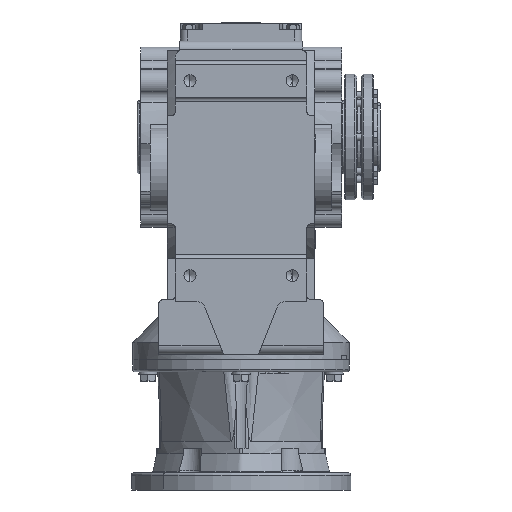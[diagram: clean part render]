
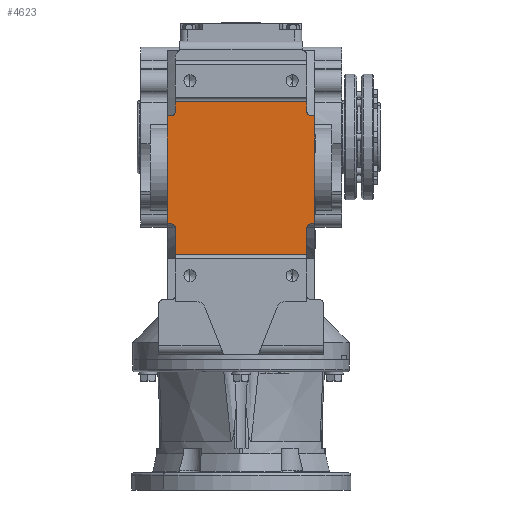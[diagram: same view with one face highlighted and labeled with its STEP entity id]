
A CAD part, front view. The second image highlights one B-rep face of the part: STEP entity #4623.
In plain terms, the highlighted planar face has unit normal (0, -1, 0).
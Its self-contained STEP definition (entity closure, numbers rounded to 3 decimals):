
#535 = EDGE_CURVE ( 'NONE', #593, #46365, #51818, .T. ) ;
#537 = EDGE_CURVE ( 'NONE', #593, #650, #51821, .T. ) ;
#539 = EDGE_CURVE ( 'NONE', #62287, #650, #51825, .T. ) ;
#544 = EDGE_CURVE ( 'NONE', #62287, #613, #51833, .T. ) ;
#593 = VERTEX_POINT ( 'NONE', #5169 ) ;
#613 = VERTEX_POINT ( 'NONE', #5114 ) ;
#650 = VERTEX_POINT ( 'NONE', #28445 ) ;
#709 = VERTEX_POINT ( 'NONE', #28261 ) ;
#712 = VERTEX_POINT ( 'NONE', #28277 ) ;
#782 = VERTEX_POINT ( 'NONE', #28432 ) ;
#790 = VERTEX_POINT ( 'NONE', #28418 ) ;
#809 = VERTEX_POINT ( 'NONE', #28392 ) ;
#820 = VERTEX_POINT ( 'NONE', #28376 ) ;
#839 = VERTEX_POINT ( 'NONE', #28347 ) ;
#843 = VERTEX_POINT ( 'NONE', #28342 ) ;
#862 = VERTEX_POINT ( 'NONE', #28320 ) ;
#864 = VERTEX_POINT ( 'NONE', #28318 ) ;
#1273 = CARTESIAN_POINT ( 'NONE',  ( -81., -206., -105. ) ) ;
#1274 = DIRECTION ( 'NONE',  ( 0., 1., 0. ) ) ;
#1275 = DIRECTION ( 'NONE',  ( 0., 0., -1. ) ) ;
#1824 = CARTESIAN_POINT ( 'NONE',  ( 85., -206., -100. ) ) ;
#4623 = ADVANCED_FACE ( 'NONE', ( #14067 ), #49195, .T. ) ;
#5114 = CARTESIAN_POINT ( 'NONE',  ( -76., -206., -105. ) ) ;
#5169 = CARTESIAN_POINT ( 'NONE',  ( 76., -206., -105. ) ) ;
#5333 = DIRECTION ( 'NONE',  ( 0., 0., 1. ) ) ;
#5334 = CARTESIAN_POINT ( 'NONE',  ( -76., -206., -103. ) ) ;
#5356 = DIRECTION ( 'NONE',  ( 0., 0., -1. ) ) ;
#5359 = CARTESIAN_POINT ( 'NONE',  ( 76., -206., -100. ) ) ;
#5360 = DIRECTION ( 'NONE',  ( 0., 0., -1. ) ) ;
#5361 = DIRECTION ( 'NONE',  ( 0., 1., 0. ) ) ;
#5362 = CARTESIAN_POINT ( 'NONE',  ( 81., -206., -105. ) ) ;
#5364 = CARTESIAN_POINT ( 'NONE',  ( -112., -206., -135.346 ) ) ;
#5366 = DIRECTION ( 'NONE',  ( 1., 0., 0. ) ) ;
#6863 = EDGE_CURVE ( 'NONE', #712, #17169, #15984, .T. ) ;
#6864 = EDGE_CURVE ( 'NONE', #782, #862, #15986, .T. ) ;
#6865 = EDGE_CURVE ( 'NONE', #862, #864, #15982, .T. ) ;
#6866 = EDGE_CURVE ( 'NONE', #790, #820, #15990, .T. ) ;
#6867 = EDGE_CURVE ( 'NONE', #839, #809, #15992, .T. ) ;
#6872 = EDGE_CURVE ( 'NONE', #864, #843, #16000, .T. ) ;
#6906 = EDGE_CURVE ( 'NONE', #790, #843, #16040, .T. ) ;
#6909 = EDGE_CURVE ( 'NONE', #839, #820, #16045, .T. ) ;
#6921 = EDGE_CURVE ( 'NONE', #709, #809, #16063, .T. ) ;
#6972 = EDGE_CURVE ( 'NONE', #709, #712, #16125, .T. ) ;
#7039 = EDGE_CURVE ( 'NONE', #46365, #17169, #43022, .T. ) ;
#7856 = CARTESIAN_POINT ( 'NONE',  ( -76., -206., -135.346 ) ) ;
#9004 = EDGE_CURVE ( 'NONE', #782, #613, #43325, .T. ) ;
#14067 = FACE_OUTER_BOUND ( 'NONE', #36953, .T. ) ;
#15982 = LINE ( 'NONE', #28007, #15991 ) ;
#15984 = LINE ( 'NONE', #28011, #15987 ) ;
#15986 = LINE ( 'NONE', #28013, #15989 ) ;
#15987 = VECTOR ( 'NONE', #28012, 1000. ) ;
#15989 = VECTOR ( 'NONE', #28015, 1000. ) ;
#15990 = LINE ( 'NONE', #28017, #15993 ) ;
#15991 = VECTOR ( 'NONE', #28016, 1000. ) ;
#15992 = LINE ( 'NONE', #28019, #15995 ) ;
#15993 = VECTOR ( 'NONE', #28018, 1000. ) ;
#15995 = VECTOR ( 'NONE', #28020, 1000. ) ;
#16000 = LINE ( 'NONE', #28031, #16003 ) ;
#16003 = VECTOR ( 'NONE', #28032, 1000. ) ;
#16040 = CIRCLE ( 'NONE', #46633, 5. ) ;
#16045 = LINE ( 'NONE', #24733, #16047 ) ;
#16047 = VECTOR ( 'NONE', #24736, 1000. ) ;
#16063 = CIRCLE ( 'NONE', #46636, 5. ) ;
#16125 = LINE ( 'NONE', #25289, #16130 ) ;
#16130 = VECTOR ( 'NONE', #25292, 1000. ) ;
#16536 = AXIS2_PLACEMENT_3D ( 'NONE', #49191, #49197, #49198 ) ;
#17169 = VERTEX_POINT ( 'NONE', #1824 ) ;
#18442 = CARTESIAN_POINT ( 'NONE',  ( 81., -206., -100. ) ) ;
#24733 = CARTESIAN_POINT ( 'NONE',  ( -112., -206., 41. ) ) ;
#24736 = DIRECTION ( 'NONE',  ( -1., 0., 0. ) ) ;
#24738 = CARTESIAN_POINT ( 'NONE',  ( -81., -206., 29.651 ) ) ;
#24740 = DIRECTION ( 'NONE',  ( 0., 1., 0. ) ) ;
#24742 = DIRECTION ( 'NONE',  ( 0., 0., -1. ) ) ;
#24815 = CARTESIAN_POINT ( 'NONE',  ( 81., -206., 29.651 ) ) ;
#24817 = DIRECTION ( 'NONE',  ( 0., 1., 0. ) ) ;
#24818 = DIRECTION ( 'NONE',  ( 0., 0., -1. ) ) ;
#25289 = CARTESIAN_POINT ( 'NONE',  ( 85., -206., 24.651 ) ) ;
#25292 = DIRECTION ( 'NONE',  ( 1., 0., 0. ) ) ;
#25872 = CARTESIAN_POINT ( 'NONE',  ( 76., -206., -100. ) ) ;
#25875 = DIRECTION ( 'NONE',  ( 1., 0., 0. ) ) ;
#28007 = CARTESIAN_POINT ( 'NONE',  ( -85., -206., 7. ) ) ;
#28011 = CARTESIAN_POINT ( 'NONE',  ( 85., -206., 7. ) ) ;
#28012 = DIRECTION ( 'NONE',  ( 0., 0., -1. ) ) ;
#28013 = CARTESIAN_POINT ( 'NONE',  ( -76., -206., -100. ) ) ;
#28015 = DIRECTION ( 'NONE',  ( -1., 0., 0. ) ) ;
#28016 = DIRECTION ( 'NONE',  ( 0., 0., 1. ) ) ;
#28017 = CARTESIAN_POINT ( 'NONE',  ( -76., -206., 46. ) ) ;
#28018 = DIRECTION ( 'NONE',  ( 0., 0., 1. ) ) ;
#28019 = CARTESIAN_POINT ( 'NONE',  ( 76., -206., 46. ) ) ;
#28020 = DIRECTION ( 'NONE',  ( 0., 0., -1. ) ) ;
#28031 = CARTESIAN_POINT ( 'NONE',  ( -76., -206., 24.651 ) ) ;
#28032 = DIRECTION ( 'NONE',  ( 1., 0., 0. ) ) ;
#28261 = CARTESIAN_POINT ( 'NONE',  ( 81., -206., 24.651 ) ) ;
#28277 = CARTESIAN_POINT ( 'NONE',  ( 85., -206., 24.651 ) ) ;
#28318 = CARTESIAN_POINT ( 'NONE',  ( -85., -206., 24.651 ) ) ;
#28320 = CARTESIAN_POINT ( 'NONE',  ( -85., -206., -100. ) ) ;
#28342 = CARTESIAN_POINT ( 'NONE',  ( -81., -206., 24.651 ) ) ;
#28347 = CARTESIAN_POINT ( 'NONE',  ( 76., -206., 41. ) ) ;
#28376 = CARTESIAN_POINT ( 'NONE',  ( -76., -206., 41. ) ) ;
#28392 = CARTESIAN_POINT ( 'NONE',  ( 76., -206., 29.651 ) ) ;
#28418 = CARTESIAN_POINT ( 'NONE',  ( -76., -206., 29.651 ) ) ;
#28432 = CARTESIAN_POINT ( 'NONE',  ( -81., -206., -100. ) ) ;
#28445 = CARTESIAN_POINT ( 'NONE',  ( 76., -206., -135.346 ) ) ;
#36953 = EDGE_LOOP ( 'NONE', ( #53633, #53631, #53629, #53628, #53626, #53623, #53622, #53620, #53618, #53616, #53615, #53612, #53611, #53609, #53607, #53605 ) ) ;
#41086 = AXIS2_PLACEMENT_3D ( 'NONE', #5362, #5361, #5360 ) ;
#43022 = LINE ( 'NONE', #25872, #43025 ) ;
#43025 = VECTOR ( 'NONE', #25875, 1000. ) ;
#43325 = CIRCLE ( 'NONE', #46753, 5. ) ;
#46365 = VERTEX_POINT ( 'NONE', #18442 ) ;
#46633 = AXIS2_PLACEMENT_3D ( 'NONE', #24738, #24740, #24742 ) ;
#46636 = AXIS2_PLACEMENT_3D ( 'NONE', #24815, #24817, #24818 ) ;
#46753 = AXIS2_PLACEMENT_3D ( 'NONE', #1273, #1274, #1275 ) ;
#49191 = CARTESIAN_POINT ( 'NONE',  ( -112., -206., 7. ) ) ;
#49195 = PLANE ( 'NONE',  #16536 ) ;
#49197 = DIRECTION ( 'NONE',  ( 0., -1., 0. ) ) ;
#49198 = DIRECTION ( 'NONE',  ( 0., 0., -1. ) ) ;
#51818 = CIRCLE ( 'NONE', #41086, 5. ) ;
#51821 = LINE ( 'NONE', #5359, #51824 ) ;
#51824 = VECTOR ( 'NONE', #5356, 1000. ) ;
#51825 = LINE ( 'NONE', #5364, #51827 ) ;
#51827 = VECTOR ( 'NONE', #5366, 1000. ) ;
#51833 = LINE ( 'NONE', #5334, #51836 ) ;
#51836 = VECTOR ( 'NONE', #5333, 1000. ) ;
#53605 = ORIENTED_EDGE ( 'NONE', *, *, #6921, .T. ) ;
#53607 = ORIENTED_EDGE ( 'NONE', *, *, #6972, .F. ) ;
#53609 = ORIENTED_EDGE ( 'NONE', *, *, #6863, .F. ) ;
#53611 = ORIENTED_EDGE ( 'NONE', *, *, #7039, .T. ) ;
#53612 = ORIENTED_EDGE ( 'NONE', *, *, #535, .T. ) ;
#53615 = ORIENTED_EDGE ( 'NONE', *, *, #537, .F. ) ;
#53616 = ORIENTED_EDGE ( 'NONE', *, *, #539, .T. ) ;
#53618 = ORIENTED_EDGE ( 'NONE', *, *, #544, .F. ) ;
#53620 = ORIENTED_EDGE ( 'NONE', *, *, #9004, .T. ) ;
#53622 = ORIENTED_EDGE ( 'NONE', *, *, #6864, .F. ) ;
#53623 = ORIENTED_EDGE ( 'NONE', *, *, #6865, .F. ) ;
#53626 = ORIENTED_EDGE ( 'NONE', *, *, #6872, .F. ) ;
#53628 = ORIENTED_EDGE ( 'NONE', *, *, #6906, .T. ) ;
#53629 = ORIENTED_EDGE ( 'NONE', *, *, #6866, .F. ) ;
#53631 = ORIENTED_EDGE ( 'NONE', *, *, #6909, .T. ) ;
#53633 = ORIENTED_EDGE ( 'NONE', *, *, #6867, .F. ) ;
#62287 = VERTEX_POINT ( 'NONE', #7856 ) ;
